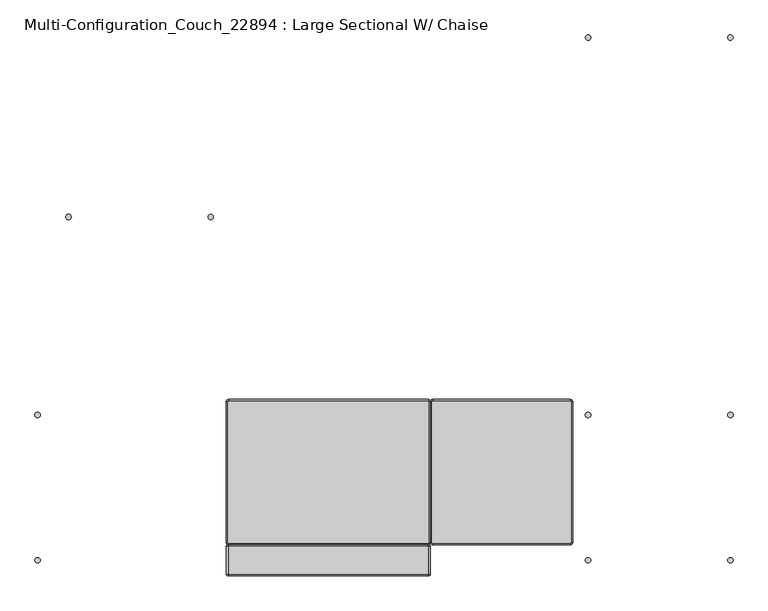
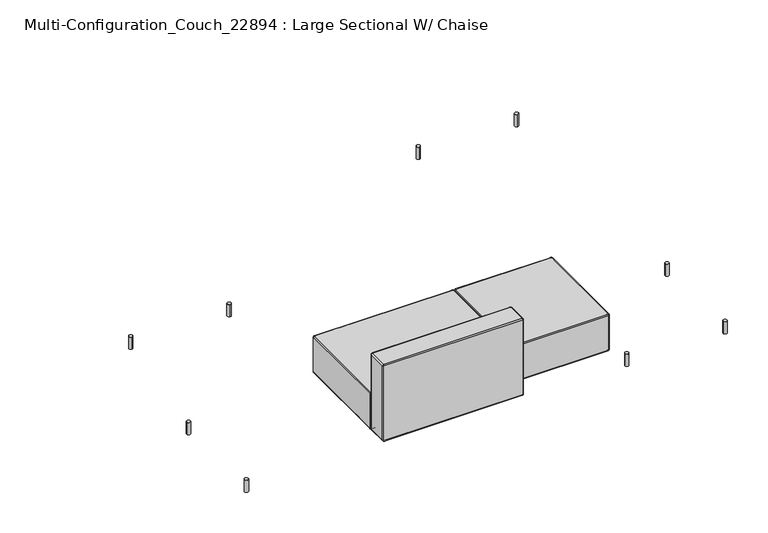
"""IFC4 building model written with IfcOpenShell, lengths in millimetres: furniture geometry, Multi-Configuration_Couch_22894 : Large Sectional W/ Chaise."""

from ifc_helpers import new_model, si_unit, point, frame, frame_2d, origin, origin_with_axes, place, context, project, spatial, circle_curve, ellipse_curve, trimmed, segment, composite_curve, outline, extrude, source, transform, mapped, element, save
from ifc_brep_helpers import plane_surface, cylinder_surface, revolved_surface, advanced_brep


def multi_configuration_couch_22894_large_sectional_w_chaise_7bcb906a(model_context):
    return source(origin(), model_context, "Body", "SolidModel", [
        advanced_brep(
        [(1278.2237705, -114.3520492, 304.8), (1275.0487705, -111.1770492, 304.8), (709.8987705, -111.1770492, 304.8), (706.7237705, -114.3520492, 304.8), (706.7237705, -692.2020492, 304.8), (709.8987705, -695.3770492, 304.8), (1275.0487705, -695.3770492, 304.8), (1278.2237705, -692.2020492, 304.8), (1278.2237705, -692.2020492, 76.2), (1275.0487705, -695.3770492, 76.2), (709.8987705, -695.3770492, 76.2), (706.7237705, -692.2020492, 76.2), (706.7237705, -114.3520492, 76.2), (709.8987705, -111.1770492, 76.2), (1275.0487705, -111.1770492, 76.2), (1278.2237705, -114.3520492, 76.2), (1275.0487705, -104.8270492, 298.45), (1275.0487705, -104.8270492, 82.55), (709.8987705, -104.8270492, 82.55), (709.8987705, -104.8270492, 298.4500064), (1284.5737705, -692.2020492, 298.45), (1284.5737705, -692.2020492, 82.55), (1284.5737705, -114.3520492, 82.55), (1284.5737705, -114.3520492, 298.45), (709.8987705, -701.7270492, 298.45), (709.8987705, -701.7270492, 82.55), (1275.0487705, -701.7270492, 82.55), (1275.0487705, -701.7270492, 298.45), (700.3737705, -114.3520492, 298.45), (700.3737705, -114.3520492, 82.55), (700.3737705, -692.2020492, 82.55), (700.3737705, -692.2020492, 298.45)],
        [
            (0, 1, circle_curve(frame((1275.0487705, -114.3520492, 304.8), z_axis=(0.0, 0.0, 1.0), x_axis=(0.0, 1.0, 0.0)), 3.175)),
            (1, 2),
            (2, 3, circle_curve(frame((709.8987705, -114.3520492, 304.8), z_axis=(0.0, 0.0, 1.0), x_axis=(-1.0, 0.0, 0.0)), 3.175)),
            (3, 4),
            (4, 5, circle_curve(frame((709.8987705, -692.2020492, 304.8), z_axis=(0.0, 0.0, 1.0), x_axis=(0.0, -1.0, 0.0)), 3.175)),
            (5, 6),
            (6, 7, circle_curve(frame((1275.0487705, -692.2020492, 304.8), z_axis=(0.0, 0.0, 1.0), x_axis=(1.0, 0.0, 0.0)), 3.175)),
            (7, 0),
            (8, 9, circle_curve(frame((1275.0487705, -692.2020492, 76.2), z_axis=(0.0, 0.0, -1.0), x_axis=(1.0, 0.0, 0.0)), 3.175)),
            (9, 10),
            (10, 11, circle_curve(frame((709.8987705, -692.2020492, 76.2), z_axis=(0.0, 0.0, -1.0), x_axis=(0.0, -1.0, 0.0)), 3.175)),
            (11, 12),
            (12, 13, circle_curve(frame((709.8987705, -114.3520492, 76.2), z_axis=(0.0, 0.0, -1.0), x_axis=(-1.0, 0.0, 0.0)), 3.175)),
            (13, 14),
            (14, 15, circle_curve(frame((1275.0487705, -114.3520492, 76.2), z_axis=(0.0, 0.0, -1.0), x_axis=(0.0, 1.0, 0.0)), 3.175)),
            (15, 8),
            (16, 17),
            (17, 18),
            (18, 19),
            (19, 16),
            (20, 21),
            (21, 22),
            (22, 23),
            (23, 20),
            (24, 25),
            (25, 26),
            (26, 27),
            (27, 24),
            (28, 29),
            (29, 30),
            (30, 31),
            (31, 28),
            (22, 17, circle_curve(frame((1275.0487705, -114.3520492, 82.55), z_axis=(0.0, 0.0, 1.0), x_axis=(-1.0, 0.0, 0.0)), 9.525)),
            (16, 23, circle_curve(frame((1275.0487705, -114.3520492, 298.45), z_axis=(0.0, 0.0, -1.0), x_axis=(-1.0, 0.0, 0.0)), 9.525)),
            (18, 29, circle_curve(frame((709.8987705, -114.3520492, 82.55), z_axis=(0.0, 0.0, 1.0), x_axis=(-1.0, 0.0, 0.0)), 9.525)),
            (28, 19, circle_curve(frame((709.8987705, -114.3520492, 298.45), z_axis=(0.0, 0.0, -1.0), x_axis=(-1.0, 0.0, 0.0)), 9.525)),
            (26, 21, circle_curve(frame((1275.0487705, -692.2020492, 82.55), z_axis=(0.0, 0.0, 1.0), x_axis=(-1.0, 0.0, 0.0)), 9.525)),
            (20, 27, circle_curve(frame((1275.0487705, -692.2020492, 298.45), z_axis=(0.0, 0.0, -1.0), x_axis=(-1.0, 0.0, 0.0)), 9.525)),
            (30, 25, circle_curve(frame((709.8987705, -692.2020492, 82.55), z_axis=(0.0, 0.0, 1.0), x_axis=(-1.0, 0.0, 0.0)), 9.525)),
            (24, 31, circle_curve(frame((709.8987705, -692.2020492, 298.45), z_axis=(0.0, 0.0, -1.0), x_axis=(-1.0, 0.0, 0.0)), 9.525)),
            (23, 0, circle_curve(frame((1278.2237705, -114.3520492, 298.45), z_axis=(0.0, -1.0, 0.0), x_axis=(-1.0, 0.0, 0.0)), 6.35)),
            (7, 20, circle_curve(frame((1278.2237705, -692.2020492, 298.45), z_axis=(0.0, 1.0, 0.0), x_axis=(-1.0, 0.0, 0.0)), 6.35)),
            (27, 6, circle_curve(frame((1275.0487705, -695.3770492, 298.45), z_axis=(-1.0, 0.0, 0.0), x_axis=(0.0, 1.0, 0.0)), 6.35)),
            (5, 24, circle_curve(frame((709.8987705, -695.3770492, 298.45), z_axis=(1.0, 0.0, 0.0), x_axis=(0.0, 1.0, 0.0)), 6.35)),
            (31, 4, circle_curve(frame((706.7237705, -692.2020492, 298.45), z_axis=(0.0, 1.0, 0.0), x_axis=(1.0, 0.0, 0.0)), 6.35)),
            (3, 28, circle_curve(frame((706.7237705, -114.3520492, 298.45), z_axis=(0.0, -1.0, 0.0), x_axis=(1.0, 0.0, 0.0)), 6.35)),
            (2, 19, circle_curve(frame((709.8987705, -111.1770492, 298.45), z_axis=(-1.0, 0.0, 0.0), x_axis=(0.0, -1.0, 0.0)), 6.35)),
            (1, 16, circle_curve(frame((1275.0487705, -111.1770492, 298.45), z_axis=(-1.0, 0.0, 0.0), x_axis=(0.0, -1.0, 0.0)), 6.35)),
            (15, 22, circle_curve(frame((1278.2237705, -114.3520492, 82.55), z_axis=(0.0, -1.0, 0.0), x_axis=(-1.0, 0.0, 0.0)), 6.35)),
            (21, 8, circle_curve(frame((1278.2237705, -692.2020492, 82.55), z_axis=(0.0, 1.0, 0.0), x_axis=(-1.0, 0.0, 0.0)), 6.35)),
            (9, 26, circle_curve(frame((1275.0487705, -695.3770492, 82.55), z_axis=(-1.0, 0.0, 0.0), x_axis=(0.0, 1.0, 0.0)), 6.35)),
            (25, 10, circle_curve(frame((709.8987705, -695.3770492, 82.55), z_axis=(1.0, 0.0, 0.0), x_axis=(0.0, 1.0, 0.0)), 6.35)),
            (11, 30, circle_curve(frame((706.7237705, -692.2020492, 82.55), z_axis=(0.0, 1.0, 0.0), x_axis=(1.0, 0.0, 0.0)), 6.35)),
            (29, 12, circle_curve(frame((706.7237705, -114.3520492, 82.55), z_axis=(0.0, -1.0, 0.0), x_axis=(1.0, 0.0, 0.0)), 6.35)),
            (13, 18, circle_curve(frame((709.8987705, -111.1770492, 82.55), z_axis=(1.0, 0.0, 0.0), x_axis=(0.0, -1.0, 0.0)), 6.35)),
            (17, 14, circle_curve(frame((1275.0487705, -111.1770492, 82.55), z_axis=(-1.0, 0.0, 0.0), x_axis=(0.0, -1.0, 0.0)), 6.35)),
        ],
        [
            plane_surface(frame((1284.5737705, -104.8270492, 304.8), z_axis=(0.0, 0.0, 1.0), x_axis=(1.0, 0.0, 0.0))),
            plane_surface(frame((1284.5737705, -104.8270492, 76.2), z_axis=(0.0, 0.0, -1.0), x_axis=(-1.0, 0.0, 0.0))),
            plane_surface(frame((700.3737705, -104.8270492, 304.8), z_axis=(0.0, 1.0, 0.0), x_axis=(0.0, 0.0, -1.0))),
            plane_surface(frame((1284.5737705, -104.8270492, 304.8), z_axis=(1.0, 0.0, 0.0), x_axis=(0.0, 0.0, -1.0))),
            plane_surface(frame((1284.5737705, -701.7270492, 304.8), z_axis=(0.0, -1.0, 0.0), x_axis=(0.0, 0.0, -1.0))),
            plane_surface(frame((700.3737705, -701.7270492, 304.8), z_axis=(-1.0, 0.0, 0.0), x_axis=(0.0, 0.0, -1.0))),
            cylinder_surface(frame((1275.0487705, -114.3520492, 76.2), z_axis=(0.0, 0.0, -1.0), x_axis=(-1.0, 0.0, 0.0)), 9.525),
            cylinder_surface(frame((709.8987705, -114.3520492, 76.2), z_axis=(0.0, 0.0, -1.0), x_axis=(-1.0, 0.0, 0.0)), 9.525),
            cylinder_surface(frame((1275.0487705, -692.2020492, 76.2), z_axis=(0.0, 0.0, -1.0), x_axis=(-1.0, 0.0, 0.0)), 9.525),
            cylinder_surface(frame((709.8987705, -692.2020492, 76.2), z_axis=(0.0, 0.0, -1.0), x_axis=(-1.0, 0.0, 0.0)), 9.525),
            cylinder_surface(frame((1278.2237705, -114.3520492, 298.45), z_axis=(0.0, -1.0, 0.0), x_axis=(-1.0, 0.0, 0.0)), 6.35),
            cylinder_surface(frame((1275.0487705, -695.3770492, 298.45), z_axis=(-1.0, 0.0, 0.0), x_axis=(0.0, 1.0, 0.0)), 6.35),
            cylinder_surface(frame((706.7237705, -692.2020492, 298.45), z_axis=(0.0, 1.0, 0.0), x_axis=(1.0, 0.0, 0.0)), 6.35),
            revolved_surface(trimmed(ellipse_curve(frame((706.7237705, -114.3520492, 298.45), z_axis=(0.0, 1.0, 0.0), x_axis=(1.0, 0.0, 0.0)), 6.35, 6.35), [point((700.3737705, -114.3520492, 298.45))], [point((706.7237705, -114.3520492, 304.8))], True, "CARTESIAN"), (709.8987705, -114.3520492, 304.8), (0.0, 0.0, 1.0)),
            cylinder_surface(frame((709.8987705, -111.1770492, 298.45), z_axis=(1.0, 0.0, 0.0), x_axis=(0.0, -1.0, 0.0)), 6.35),
            cylinder_surface(frame((1278.2237705, -114.3520492, 82.55), z_axis=(0.0, -1.0, 0.0), x_axis=(-1.0, 0.0, 0.0)), 6.35),
            cylinder_surface(frame((1275.0487705, -695.3770492, 82.55), z_axis=(-1.0, 0.0, 0.0), x_axis=(0.0, 1.0, 0.0)), 6.35),
            cylinder_surface(frame((706.7237705, -692.2020492, 82.55), z_axis=(0.0, 1.0, 0.0), x_axis=(1.0, 0.0, 0.0)), 6.35),
            cylinder_surface(frame((709.8987705, -111.1770492, 82.55), z_axis=(1.0, 0.0, 0.0), x_axis=(0.0, -1.0, 0.0)), 6.35),
            revolved_surface(trimmed(ellipse_curve(frame((1275.0487705, -111.1770492, 298.45), z_axis=(1.0, 0.0, 0.0), x_axis=(0.0, -1.0, 0.0)), 6.35, 6.35), [point((1275.0487705, -104.8270492, 298.45))], [point((1275.0487705, -111.1770492, 304.8))], True, "CARTESIAN"), (1275.0487705, -114.3520492, 304.8), (0.0, 0.0, 1.0)),
            revolved_surface(trimmed(ellipse_curve(frame((1278.2237705, -692.2020492, 298.45), z_axis=(0.0, -1.0, 0.0), x_axis=(-1.0, 0.0, 0.0)), 6.35, 6.35), [point((1284.5737705, -692.2020492, 298.45))], [point((1278.2237705, -692.2020492, 304.8))], True, "CARTESIAN"), (1275.0487705, -692.2020492, 304.8), (0.0, 0.0, 1.0)),
            revolved_surface(trimmed(ellipse_curve(frame((709.8987705, -695.3770492, 298.45), z_axis=(-1.0, 0.0, 0.0), x_axis=(0.0, 1.0, 0.0)), 6.35, 6.35), [point((709.8987705, -701.7270492, 298.45))], [point((709.8987705, -695.3770492, 304.8))], True, "CARTESIAN"), (709.8987705, -692.2020492, 304.8), (0.0, 0.0, 1.0)),
            revolved_surface(trimmed(ellipse_curve(frame((1275.0487705, -111.1770492, 82.55), z_axis=(1.0, 0.0, 0.0), x_axis=(0.0, -1.0, 0.0)), 6.35, 6.35), [point((1275.0487705, -111.1770492, 76.2))], [point((1275.0487705, -104.8270492, 82.55))], True, "CARTESIAN"), (1275.0487705, -114.3520492, 76.2), (0.0, 0.0, 1.0)),
            revolved_surface(trimmed(ellipse_curve(frame((1278.2237705, -692.2020492, 82.55), z_axis=(0.0, -1.0, 0.0), x_axis=(-1.0, 0.0, 0.0)), 6.35, 6.35), [point((1278.2237705, -692.2020492, 76.2))], [point((1284.5737705, -692.2020492, 82.55))], True, "CARTESIAN"), (1275.0487705, -692.2020492, 76.2), (0.0, 0.0, 1.0)),
            revolved_surface(trimmed(ellipse_curve(frame((709.8987705, -695.3770492, 82.55), z_axis=(-1.0, 0.0, 0.0), x_axis=(0.0, 1.0, 0.0)), 6.35, 6.35), [point((709.8987705, -695.3770492, 76.2))], [point((709.8987705, -701.7270492, 82.55))], True, "CARTESIAN"), (709.8987705, -692.2020492, 76.2), (0.0, 0.0, 1.0)),
            revolved_surface(trimmed(ellipse_curve(frame((706.7237705, -114.3520492, 82.55), z_axis=(0.0, 1.0, 0.0), x_axis=(1.0, 0.0, 0.0)), 6.35, 6.35), [point((706.7237705, -114.3520492, 76.2))], [point((700.3737705, -114.3520492, 82.55))], True, "CARTESIAN"), (709.8987705, -114.3520492, 76.2), (0.0, 0.0, 1.0)),
        ],
        [
            (0, [[1, 2, 3, 4, 5, 6, 7, 8]]),
            (1, [[9, 10, 11, 12, 13, 14, 15, 16]]),
            (2, [[17, 18, 19, 20]]),
            (3, [[21, 22, 23, 24]]),
            (4, [[25, 26, 27, 28]]),
            (5, [[29, 30, 31, 32]]),
            (6, [[-23, 33, -17, 34]]),
            (7, [[-19, 35, -29, 36]]),
            (8, [[-27, 37, -21, 38]]),
            (9, [[-31, 39, -25, 40]]),
            (10, [[-24, 41, -8, 42]]),
            (11, [[-28, 43, -6, 44]]),
            (12, [[-32, 45, -4, 46]]),
            (13, [[-3, 47, -36, -46]]),
            (14, [[-2, 48, -20, -47]]),
            (15, [[-16, 49, -22, 50]]),
            (16, [[-10, 51, -26, 52]]),
            (17, [[-12, 53, -30, 54]]),
            (18, [[-14, 55, -18, 56]]),
            (19, [[-34, -48, -1, -41]]),
            (20, [[-7, -43, -38, -42]]),
            (21, [[-5, -45, -40, -44]]),
            (22, [[-15, -56, -33, -49]]),
            (23, [[-37, -51, -9, -50]]),
            (24, [[-39, -53, -11, -52]]),
            (25, [[-35, -55, -13, -54]]),
        ],
    ),
        advanced_brep(
        [(-131.4762295, -701.7270492, 549.275), (-128.3012295, -701.7270492, 552.45), (690.8487705, -701.7270492, 552.45), (694.0237705, -701.7270492, 549.275), (694.0237705, -701.7270492, 85.725), (690.8487705, -701.7270492, 82.55), (-128.3012295, -701.7270492, 82.55), (-131.4762295, -701.7270492, 85.725), (-131.4762295, -828.7270492, 85.725), (-128.3012295, -828.7270492, 82.55), (690.8487705, -828.7270492, 82.55), (694.0237705, -828.7270492, 85.725), (694.0237705, -828.7270492, 549.275), (690.8487705, -828.7270492, 552.45), (-128.3012295, -828.7270492, 552.45), (-131.4762295, -828.7270492, 549.275), (-128.3012295, -708.0770492, 558.8), (-128.3012295, -822.3770492, 558.8), (690.8487705, -822.3770492, 558.8), (690.8487705, -708.0770428, 558.8), (-137.8262295, -708.0770492, 85.725), (-137.8262295, -822.3770492, 85.725), (-137.8262295, -822.3770492, 549.275), (-137.8262295, -708.0770492, 549.275), (690.8487705, -708.0770492, 76.2), (690.8487705, -822.3770492, 76.2), (-128.3012295, -822.3770492, 76.2), (-128.3012295, -708.0770492, 76.2), (700.3737705, -708.0770492, 549.275), (700.3737705, -822.3770492, 549.275), (700.3737705, -822.3770492, 85.725), (700.3737705, -708.0770492, 85.725)],
        [
            (0, 1, circle_curve(frame((-128.3012295, -701.7270492, 549.275), z_axis=(0.0, 1.0, 0.0), x_axis=(0.0, 0.0, 1.0)), 3.175)),
            (1, 2),
            (2, 3, circle_curve(frame((690.8487705, -701.7270492, 549.275), z_axis=(0.0, 1.0, 0.0), x_axis=(1.0, 0.0, 0.0)), 3.175)),
            (3, 4),
            (4, 5, circle_curve(frame((690.8487705, -701.7270492, 85.725), z_axis=(0.0, 1.0, 0.0), x_axis=(0.0, 0.0, -1.0)), 3.175)),
            (5, 6),
            (6, 7, circle_curve(frame((-128.3012295, -701.7270492, 85.725), z_axis=(0.0, 1.0, 0.0), x_axis=(-1.0, 0.0, 0.0)), 3.175)),
            (7, 0),
            (8, 9, circle_curve(frame((-128.3012295, -828.7270492, 85.725), z_axis=(0.0, -1.0, 0.0), x_axis=(-1.0, 0.0, 0.0)), 3.175)),
            (9, 10),
            (10, 11, circle_curve(frame((690.8487705, -828.7270492, 85.725), z_axis=(0.0, -1.0, 0.0), x_axis=(0.0, 0.0, -1.0)), 3.175)),
            (11, 12),
            (12, 13, circle_curve(frame((690.8487705, -828.7270492, 549.275), z_axis=(0.0, -1.0, 0.0), x_axis=(1.0, 0.0, 0.0)), 3.175)),
            (13, 14),
            (14, 15, circle_curve(frame((-128.3012295, -828.7270492, 549.275), z_axis=(0.0, -1.0, 0.0), x_axis=(0.0, 0.0, 1.0)), 3.175)),
            (15, 8),
            (16, 17),
            (17, 18),
            (18, 19),
            (19, 16),
            (20, 21),
            (21, 22),
            (22, 23),
            (23, 20),
            (24, 25),
            (25, 26),
            (26, 27),
            (27, 24),
            (28, 29),
            (29, 30),
            (30, 31),
            (31, 28),
            (22, 17, circle_curve(frame((-128.3012295, -822.3770492, 549.275), z_axis=(0.0, 1.0, 0.0), x_axis=(1.0, 0.0, 0.0)), 9.525)),
            (16, 23, circle_curve(frame((-128.3012295, -708.0770492, 549.275), z_axis=(0.0, -1.0, 0.0), x_axis=(1.0, 0.0, 0.0)), 9.525)),
            (18, 29, circle_curve(frame((690.8487705, -822.3770492, 549.275), z_axis=(0.0, 1.0, 0.0), x_axis=(1.0, 0.0, 0.0)), 9.525)),
            (28, 19, circle_curve(frame((690.8487705, -708.0770492, 549.275), z_axis=(0.0, -1.0, 0.0), x_axis=(1.0, 0.0, 0.0)), 9.525)),
            (26, 21, circle_curve(frame((-128.3012295, -822.3770492, 85.725), z_axis=(0.0, 1.0, 0.0), x_axis=(1.0, 0.0, 0.0)), 9.525)),
            (20, 27, circle_curve(frame((-128.3012295, -708.0770492, 85.725), z_axis=(0.0, -1.0, 0.0), x_axis=(1.0, 0.0, 0.0)), 9.525)),
            (30, 25, circle_curve(frame((690.8487705, -822.3770492, 85.725), z_axis=(0.0, 1.0, 0.0), x_axis=(1.0, 0.0, 0.0)), 9.525)),
            (24, 31, circle_curve(frame((690.8487705, -708.0770492, 85.725), z_axis=(0.0, -1.0, 0.0), x_axis=(1.0, 0.0, 0.0)), 9.525)),
            (23, 0, circle_curve(frame((-131.4762295, -708.0770492, 549.275), z_axis=(0.0, 0.0, -1.0), x_axis=(1.0, 0.0, 0.0)), 6.35)),
            (7, 20, circle_curve(frame((-131.4762295, -708.0770492, 85.725), z_axis=(0.0, 0.0, 1.0), x_axis=(1.0, 0.0, 0.0)), 6.35)),
            (27, 6, circle_curve(frame((-128.3012295, -708.0770492, 82.55), z_axis=(1.0, 0.0, 0.0), x_axis=(0.0, 0.0, 1.0)), 6.35)),
            (5, 24, circle_curve(frame((690.8487705, -708.0770492, 82.55), z_axis=(-1.0, 0.0, 0.0), x_axis=(0.0, 0.0, 1.0)), 6.35)),
            (31, 4, circle_curve(frame((694.0237705, -708.0770492, 85.725), z_axis=(0.0, 0.0, 1.0), x_axis=(-1.0, 0.0, 0.0)), 6.35)),
            (3, 28, circle_curve(frame((694.0237705, -708.0770492, 549.275), z_axis=(0.0, 0.0, -1.0), x_axis=(-1.0, 0.0, 0.0)), 6.35)),
            (2, 19, circle_curve(frame((690.8487705, -708.0770492, 552.45), z_axis=(1.0, 0.0, 0.0), x_axis=(0.0, 0.0, -1.0)), 6.35)),
            (1, 16, circle_curve(frame((-128.3012295, -708.0770492, 552.45), z_axis=(1.0, 0.0, 0.0), x_axis=(0.0, 0.0, -1.0)), 6.35)),
            (15, 22, circle_curve(frame((-131.4762295, -822.3770492, 549.275), z_axis=(0.0, 0.0, -1.0), x_axis=(1.0, 0.0, 0.0)), 6.35)),
            (21, 8, circle_curve(frame((-131.4762295, -822.3770492, 85.725), z_axis=(0.0, 0.0, 1.0), x_axis=(1.0, 0.0, 0.0)), 6.35)),
            (9, 26, circle_curve(frame((-128.3012295, -822.3770492, 82.55), z_axis=(1.0, 0.0, 0.0), x_axis=(0.0, 0.0, 1.0)), 6.35)),
            (25, 10, circle_curve(frame((690.8487705, -822.3770492, 82.55), z_axis=(-1.0, 0.0, 0.0), x_axis=(0.0, 0.0, 1.0)), 6.35)),
            (11, 30, circle_curve(frame((694.0237705, -822.3770492, 85.725), z_axis=(0.0, 0.0, 1.0), x_axis=(-1.0, 0.0, 0.0)), 6.35)),
            (29, 12, circle_curve(frame((694.0237705, -822.3770492, 549.275), z_axis=(0.0, 0.0, -1.0), x_axis=(-1.0, 0.0, 0.0)), 6.35)),
            (13, 18, circle_curve(frame((690.8487705, -822.3770492, 552.45), z_axis=(-1.0, 0.0, 0.0), x_axis=(0.0, 0.0, -1.0)), 6.35)),
            (17, 14, circle_curve(frame((-128.3012295, -822.3770492, 552.45), z_axis=(1.0, 0.0, 0.0), x_axis=(0.0, 0.0, -1.0)), 6.35)),
        ],
        [
            plane_surface(frame((-137.8262295, -701.7270492, 558.8), z_axis=(0.0, 1.0, 0.0), x_axis=(-1.0, 0.0, 0.0))),
            plane_surface(frame((-137.8262295, -828.7270492, 558.8), z_axis=(0.0, -1.0, 0.0), x_axis=(1.0, 0.0, 0.0))),
            plane_surface(frame((700.3737705, -701.7270492, 558.8), z_axis=(0.0, 0.0, 1.0), x_axis=(0.0, -1.0, 0.0))),
            plane_surface(frame((-137.8262295, -701.7270492, 558.8), z_axis=(-1.0, 0.0, 0.0), x_axis=(0.0, -1.0, 0.0))),
            plane_surface(frame((-137.8262295, -701.7270492, 76.2), z_axis=(0.0, 0.0, -1.0), x_axis=(0.0, -1.0, 0.0))),
            plane_surface(frame((700.3737705, -701.7270492, 76.2), z_axis=(1.0, 0.0, 0.0), x_axis=(0.0, -1.0, 0.0))),
            cylinder_surface(frame((-128.3012295, -828.7270492, 549.275), z_axis=(0.0, -1.0, 0.0), x_axis=(1.0, 0.0, 0.0)), 9.525),
            cylinder_surface(frame((690.8487705, -828.7270492, 549.275), z_axis=(0.0, -1.0, 0.0), x_axis=(1.0, 0.0, 0.0)), 9.525),
            cylinder_surface(frame((-128.3012295, -828.7270492, 85.725), z_axis=(0.0, -1.0, 0.0), x_axis=(1.0, 0.0, 0.0)), 9.525),
            cylinder_surface(frame((690.8487705, -828.7270492, 85.725), z_axis=(0.0, -1.0, 0.0), x_axis=(1.0, 0.0, 0.0)), 9.525),
            cylinder_surface(frame((-131.4762295, -708.0770492, 549.275), z_axis=(0.0, 0.0, -1.0), x_axis=(1.0, 0.0, 0.0)), 6.35),
            cylinder_surface(frame((-128.3012295, -708.0770492, 82.55), z_axis=(1.0, 0.0, 0.0), x_axis=(0.0, 0.0, 1.0)), 6.35),
            cylinder_surface(frame((694.0237705, -708.0770492, 85.725), z_axis=(0.0, 0.0, 1.0), x_axis=(-1.0, 0.0, 0.0)), 6.35),
            revolved_surface(trimmed(ellipse_curve(frame((694.0237705, -708.0770492, 549.275), z_axis=(0.0, 0.0, 1.0), x_axis=(-1.0, 0.0, 0.0)), 6.35, 6.35), [point((700.3737705, -708.0770492, 549.275))], [point((694.0237705, -701.7270492, 549.275))], True, "CARTESIAN"), (690.8487705, -701.7270492, 549.275), (0.0, 1.0, 0.0)),
            cylinder_surface(frame((690.8487705, -708.0770492, 552.45), z_axis=(-1.0, 0.0, 0.0), x_axis=(0.0, 0.0, -1.0)), 6.35),
            cylinder_surface(frame((-131.4762295, -822.3770492, 549.275), z_axis=(0.0, 0.0, -1.0), x_axis=(1.0, 0.0, 0.0)), 6.35),
            cylinder_surface(frame((-128.3012295, -822.3770492, 82.55), z_axis=(1.0, 0.0, 0.0), x_axis=(0.0, 0.0, 1.0)), 6.35),
            cylinder_surface(frame((694.0237705, -822.3770492, 85.725), z_axis=(0.0, 0.0, 1.0), x_axis=(-1.0, 0.0, 0.0)), 6.35),
            cylinder_surface(frame((690.8487705, -822.3770492, 552.45), z_axis=(-1.0, 0.0, 0.0), x_axis=(0.0, 0.0, -1.0)), 6.35),
            revolved_surface(trimmed(ellipse_curve(frame((-128.3012295, -708.0770492, 552.45), z_axis=(-1.0, 0.0, 0.0), x_axis=(0.0, 0.0, -1.0)), 6.35, 6.35), [point((-128.3012295, -708.0770492, 558.8))], [point((-128.3012295, -701.7270492, 552.45))], True, "CARTESIAN"), (-128.3012295, -701.7270492, 549.275), (0.0, 1.0, 0.0)),
            revolved_surface(trimmed(ellipse_curve(frame((-131.4762295, -708.0770492, 85.725), z_axis=(0.0, 0.0, -1.0), x_axis=(1.0, 0.0, 0.0)), 6.35, 6.35), [point((-137.8262295, -708.0770492, 85.725))], [point((-131.4762295, -701.7270492, 85.725))], True, "CARTESIAN"), (-128.3012295, -701.7270492, 85.725), (0.0, 1.0, 0.0)),
            revolved_surface(trimmed(ellipse_curve(frame((690.8487705, -708.0770492, 82.55), z_axis=(1.0, 0.0, 0.0), x_axis=(0.0, 0.0, 1.0)), 6.35, 6.35), [point((690.8487705, -708.0770492, 76.2))], [point((690.8487705, -701.7270492, 82.55))], True, "CARTESIAN"), (690.8487705, -701.7270492, 85.725), (0.0, 1.0, 0.0)),
            revolved_surface(trimmed(ellipse_curve(frame((-128.3012295, -822.3770492, 552.45), z_axis=(-1.0, 0.0, 0.0), x_axis=(0.0, 0.0, -1.0)), 6.35, 6.35), [point((-128.3012295, -828.7270492, 552.45))], [point((-128.3012295, -822.3770492, 558.8))], True, "CARTESIAN"), (-128.3012295, -828.7270492, 549.275), (0.0, 1.0, 0.0)),
            revolved_surface(trimmed(ellipse_curve(frame((-131.4762295, -822.3770492, 85.725), z_axis=(0.0, 0.0, -1.0), x_axis=(1.0, 0.0, 0.0)), 6.35, 6.35), [point((-131.4762295, -828.7270492, 85.725))], [point((-137.8262295, -822.3770492, 85.725))], True, "CARTESIAN"), (-128.3012295, -828.7270492, 85.725), (0.0, 1.0, 0.0)),
            revolved_surface(trimmed(ellipse_curve(frame((690.8487705, -822.3770492, 82.55), z_axis=(1.0, 0.0, 0.0), x_axis=(0.0, 0.0, 1.0)), 6.35, 6.35), [point((690.8487705, -828.7270492, 82.55))], [point((690.8487705, -822.3770492, 76.2))], True, "CARTESIAN"), (690.8487705, -828.7270492, 85.725), (0.0, 1.0, 0.0)),
            revolved_surface(trimmed(ellipse_curve(frame((694.0237705, -822.3770492, 549.275), z_axis=(0.0, 0.0, 1.0), x_axis=(-1.0, 0.0, 0.0)), 6.35, 6.35), [point((694.0237705, -828.7270492, 549.275))], [point((700.3737705, -822.3770492, 549.275))], True, "CARTESIAN"), (690.8487705, -828.7270492, 549.275), (0.0, 1.0, 0.0)),
        ],
        [
            (0, [[1, 2, 3, 4, 5, 6, 7, 8]]),
            (1, [[9, 10, 11, 12, 13, 14, 15, 16]]),
            (2, [[17, 18, 19, 20]]),
            (3, [[21, 22, 23, 24]]),
            (4, [[25, 26, 27, 28]]),
            (5, [[29, 30, 31, 32]]),
            (6, [[-23, 33, -17, 34]]),
            (7, [[-19, 35, -29, 36]]),
            (8, [[-27, 37, -21, 38]]),
            (9, [[-31, 39, -25, 40]]),
            (10, [[-24, 41, -8, 42]]),
            (11, [[-28, 43, -6, 44]]),
            (12, [[-32, 45, -4, 46]]),
            (13, [[-3, 47, -36, -46]]),
            (14, [[-2, 48, -20, -47]]),
            (15, [[-16, 49, -22, 50]]),
            (16, [[-10, 51, -26, 52]]),
            (17, [[-12, 53, -30, 54]]),
            (18, [[-14, 55, -18, 56]]),
            (19, [[-34, -48, -1, -41]]),
            (20, [[-7, -43, -38, -42]]),
            (21, [[-5, -45, -40, -44]]),
            (22, [[-15, -56, -33, -49]]),
            (23, [[-37, -51, -9, -50]]),
            (24, [[-39, -53, -11, -52]]),
            (25, [[-35, -55, -13, -54]]),
        ],
    ),
        advanced_brep(
        [(694.0237705, -114.3520492, 304.8), (690.8487705, -111.1770492, 304.8), (-128.3012295, -111.1770492, 304.8), (-131.4762295, -114.3520492, 304.8), (-131.4762295, -692.2020492, 304.8), (-128.3012295, -695.3770492, 304.8), (690.8487705, -695.3770492, 304.8), (694.0237705, -692.2020492, 304.8), (694.0237705, -692.2020492, 76.2), (690.8487705, -695.3770492, 76.2), (-128.3012295, -695.3770492, 76.2), (-131.4762295, -692.2020492, 76.2), (-131.4762295, -114.3520492, 76.2), (-128.3012295, -111.1770492, 76.2), (690.8487705, -111.1770492, 76.2), (694.0237705, -114.3520492, 76.2), (690.8487705, -104.8270492, 298.45), (690.8487705, -104.8270492, 82.55), (-128.3012295, -104.8270492, 82.55), (-128.3012295, -104.8270492, 298.4500064), (700.3737705, -692.2020492, 298.45), (700.3737705, -692.2020492, 82.55), (700.3737705, -114.3520492, 82.55), (700.3737705, -114.3520492, 298.45), (-128.3012295, -701.7270492, 298.45), (-128.3012295, -701.7270492, 82.55), (690.8487705, -701.7270492, 82.55), (690.8487705, -701.7270492, 298.45), (-137.8262295, -114.3520492, 298.45), (-137.8262295, -114.3520492, 82.55), (-137.8262295, -692.2020492, 82.55), (-137.8262295, -692.2020492, 298.45)],
        [
            (0, 1, circle_curve(frame((690.8487705, -114.3520492, 304.8), z_axis=(0.0, 0.0, 1.0), x_axis=(0.0, 1.0, 0.0)), 3.175)),
            (1, 2),
            (2, 3, circle_curve(frame((-128.3012295, -114.3520492, 304.8), z_axis=(0.0, 0.0, 1.0), x_axis=(-1.0, 0.0, 0.0)), 3.175)),
            (3, 4),
            (4, 5, circle_curve(frame((-128.3012295, -692.2020492, 304.8), z_axis=(0.0, 0.0, 1.0), x_axis=(0.0, -1.0, 0.0)), 3.175)),
            (5, 6),
            (6, 7, circle_curve(frame((690.8487705, -692.2020492, 304.8), z_axis=(0.0, 0.0, 1.0), x_axis=(1.0, 0.0, 0.0)), 3.175)),
            (7, 0),
            (8, 9, circle_curve(frame((690.8487705, -692.2020492, 76.2), z_axis=(0.0, 0.0, -1.0), x_axis=(1.0, 0.0, 0.0)), 3.175)),
            (9, 10),
            (10, 11, circle_curve(frame((-128.3012295, -692.2020492, 76.2), z_axis=(0.0, 0.0, -1.0), x_axis=(0.0, -1.0, 0.0)), 3.175)),
            (11, 12),
            (12, 13, circle_curve(frame((-128.3012295, -114.3520492, 76.2), z_axis=(0.0, 0.0, -1.0), x_axis=(-1.0, 0.0, 0.0)), 3.175)),
            (13, 14),
            (14, 15, circle_curve(frame((690.8487705, -114.3520492, 76.2), z_axis=(0.0, 0.0, -1.0), x_axis=(0.0, 1.0, 0.0)), 3.175)),
            (15, 8),
            (16, 17),
            (17, 18),
            (18, 19),
            (19, 16),
            (20, 21),
            (21, 22),
            (22, 23),
            (23, 20),
            (24, 25),
            (25, 26),
            (26, 27),
            (27, 24),
            (28, 29),
            (29, 30),
            (30, 31),
            (31, 28),
            (22, 17, circle_curve(frame((690.8487705, -114.3520492, 82.55), z_axis=(0.0, 0.0, 1.0), x_axis=(-1.0, 0.0, 0.0)), 9.525)),
            (16, 23, circle_curve(frame((690.8487705, -114.3520492, 298.45), z_axis=(0.0, 0.0, -1.0), x_axis=(-1.0, 0.0, 0.0)), 9.525)),
            (18, 29, circle_curve(frame((-128.3012295, -114.3520492, 82.55), z_axis=(0.0, 0.0, 1.0), x_axis=(-1.0, 0.0, 0.0)), 9.525)),
            (28, 19, circle_curve(frame((-128.3012295, -114.3520492, 298.45), z_axis=(0.0, 0.0, -1.0), x_axis=(-1.0, 0.0, 0.0)), 9.525)),
            (26, 21, circle_curve(frame((690.8487705, -692.2020492, 82.55), z_axis=(0.0, 0.0, 1.0), x_axis=(-1.0, 0.0, 0.0)), 9.525)),
            (20, 27, circle_curve(frame((690.8487705, -692.2020492, 298.45), z_axis=(0.0, 0.0, -1.0), x_axis=(-1.0, 0.0, 0.0)), 9.525)),
            (30, 25, circle_curve(frame((-128.3012295, -692.2020492, 82.55), z_axis=(0.0, 0.0, 1.0), x_axis=(-1.0, 0.0, 0.0)), 9.525)),
            (24, 31, circle_curve(frame((-128.3012295, -692.2020492, 298.45), z_axis=(0.0, 0.0, -1.0), x_axis=(-1.0, 0.0, 0.0)), 9.525)),
            (23, 0, circle_curve(frame((694.0237705, -114.3520492, 298.45), z_axis=(0.0, -1.0, 0.0), x_axis=(-1.0, 0.0, 0.0)), 6.35)),
            (7, 20, circle_curve(frame((694.0237705, -692.2020492, 298.45), z_axis=(0.0, 1.0, 0.0), x_axis=(-1.0, 0.0, 0.0)), 6.35)),
            (27, 6, circle_curve(frame((690.8487705, -695.3770492, 298.45), z_axis=(-1.0, 0.0, 0.0), x_axis=(0.0, 1.0, 0.0)), 6.35)),
            (5, 24, circle_curve(frame((-128.3012295, -695.3770492, 298.45), z_axis=(1.0, 0.0, 0.0), x_axis=(0.0, 1.0, 0.0)), 6.35)),
            (31, 4, circle_curve(frame((-131.4762295, -692.2020492, 298.45), z_axis=(0.0, 1.0, 0.0), x_axis=(1.0, 0.0, 0.0)), 6.35)),
            (3, 28, circle_curve(frame((-131.4762295, -114.3520492, 298.45), z_axis=(0.0, -1.0, 0.0), x_axis=(1.0, 0.0, 0.0)), 6.35)),
            (2, 19, circle_curve(frame((-128.3012295, -111.1770492, 298.45), z_axis=(-1.0, 0.0, 0.0), x_axis=(0.0, -1.0, 0.0)), 6.35)),
            (1, 16, circle_curve(frame((690.8487705, -111.1770492, 298.45), z_axis=(-1.0, 0.0, 0.0), x_axis=(0.0, -1.0, 0.0)), 6.35)),
            (15, 22, circle_curve(frame((694.0237705, -114.3520492, 82.55), z_axis=(0.0, -1.0, 0.0), x_axis=(-1.0, 0.0, 0.0)), 6.35)),
            (21, 8, circle_curve(frame((694.0237705, -692.2020492, 82.55), z_axis=(0.0, 1.0, 0.0), x_axis=(-1.0, 0.0, 0.0)), 6.35)),
            (9, 26, circle_curve(frame((690.8487705, -695.3770492, 82.55), z_axis=(-1.0, 0.0, 0.0), x_axis=(0.0, 1.0, 0.0)), 6.35)),
            (25, 10, circle_curve(frame((-128.3012295, -695.3770492, 82.55), z_axis=(1.0, 0.0, 0.0), x_axis=(0.0, 1.0, 0.0)), 6.35)),
            (11, 30, circle_curve(frame((-131.4762295, -692.2020492, 82.55), z_axis=(0.0, 1.0, 0.0), x_axis=(1.0, 0.0, 0.0)), 6.35)),
            (29, 12, circle_curve(frame((-131.4762295, -114.3520492, 82.55), z_axis=(0.0, -1.0, 0.0), x_axis=(1.0, 0.0, 0.0)), 6.35)),
            (13, 18, circle_curve(frame((-128.3012295, -111.1770492, 82.55), z_axis=(1.0, 0.0, 0.0), x_axis=(0.0, -1.0, 0.0)), 6.35)),
            (17, 14, circle_curve(frame((690.8487705, -111.1770492, 82.55), z_axis=(-1.0, 0.0, 0.0), x_axis=(0.0, -1.0, 0.0)), 6.35)),
        ],
        [
            plane_surface(frame((700.3737705, -104.8270492, 304.8), z_axis=(0.0, 0.0, 1.0), x_axis=(1.0, 0.0, 0.0))),
            plane_surface(frame((700.3737705, -104.8270492, 76.2), z_axis=(0.0, 0.0, -1.0), x_axis=(-1.0, 0.0, 0.0))),
            plane_surface(frame((-137.8262295, -104.8270492, 304.8), z_axis=(0.0, 1.0, 0.0), x_axis=(0.0, 0.0, -1.0))),
            plane_surface(frame((700.3737705, -104.8270492, 304.8), z_axis=(1.0, 0.0, 0.0), x_axis=(0.0, 0.0, -1.0))),
            plane_surface(frame((700.3737705, -701.7270492, 304.8), z_axis=(0.0, -1.0, 0.0), x_axis=(0.0, 0.0, -1.0))),
            plane_surface(frame((-137.8262295, -701.7270492, 304.8), z_axis=(-1.0, 0.0, 0.0), x_axis=(0.0, 0.0, -1.0))),
            cylinder_surface(frame((690.8487705, -114.3520492, 76.2), z_axis=(0.0, 0.0, -1.0), x_axis=(-1.0, 0.0, 0.0)), 9.525),
            cylinder_surface(frame((-128.3012295, -114.3520492, 76.2), z_axis=(0.0, 0.0, -1.0), x_axis=(-1.0, 0.0, 0.0)), 9.525),
            cylinder_surface(frame((690.8487705, -692.2020492, 76.2), z_axis=(0.0, 0.0, -1.0), x_axis=(-1.0, 0.0, 0.0)), 9.525),
            cylinder_surface(frame((-128.3012295, -692.2020492, 76.2), z_axis=(0.0, 0.0, -1.0), x_axis=(-1.0, 0.0, 0.0)), 9.525),
            cylinder_surface(frame((694.0237705, -114.3520492, 298.45), z_axis=(0.0, -1.0, 0.0), x_axis=(-1.0, 0.0, 0.0)), 6.35),
            cylinder_surface(frame((690.8487705, -695.3770492, 298.45), z_axis=(-1.0, 0.0, 0.0), x_axis=(0.0, 1.0, 0.0)), 6.35),
            cylinder_surface(frame((-131.4762295, -692.2020492, 298.45), z_axis=(0.0, 1.0, 0.0), x_axis=(1.0, 0.0, 0.0)), 6.35),
            revolved_surface(trimmed(ellipse_curve(frame((-131.4762295, -114.3520492, 298.45), z_axis=(0.0, 1.0, 0.0), x_axis=(1.0, 0.0, 0.0)), 6.35, 6.35), [point((-137.8262295, -114.3520492, 298.45))], [point((-131.4762295, -114.3520492, 304.8))], True, "CARTESIAN"), (-128.3012295, -114.3520492, 304.8), (0.0, 0.0, 1.0)),
            cylinder_surface(frame((-128.3012295, -111.1770492, 298.45), z_axis=(1.0, 0.0, 0.0), x_axis=(0.0, -1.0, 0.0)), 6.35),
            cylinder_surface(frame((694.0237705, -114.3520492, 82.55), z_axis=(0.0, -1.0, 0.0), x_axis=(-1.0, 0.0, 0.0)), 6.35),
            cylinder_surface(frame((690.8487705, -695.3770492, 82.55), z_axis=(-1.0, 0.0, 0.0), x_axis=(0.0, 1.0, 0.0)), 6.35),
            cylinder_surface(frame((-131.4762295, -692.2020492, 82.55), z_axis=(0.0, 1.0, 0.0), x_axis=(1.0, 0.0, 0.0)), 6.35),
            cylinder_surface(frame((-128.3012295, -111.1770492, 82.55), z_axis=(1.0, 0.0, 0.0), x_axis=(0.0, -1.0, 0.0)), 6.35),
            revolved_surface(trimmed(ellipse_curve(frame((690.8487705, -111.1770492, 298.45), z_axis=(1.0, 0.0, 0.0), x_axis=(0.0, -1.0, 0.0)), 6.35, 6.35), [point((690.8487705, -104.8270492, 298.45))], [point((690.8487705, -111.1770492, 304.8))], True, "CARTESIAN"), (690.8487705, -114.3520492, 304.8), (0.0, 0.0, 1.0)),
            revolved_surface(trimmed(ellipse_curve(frame((694.0237705, -692.2020492, 298.45), z_axis=(0.0, -1.0, 0.0), x_axis=(-1.0, 0.0, 0.0)), 6.35, 6.35), [point((700.3737705, -692.2020492, 298.45))], [point((694.0237705, -692.2020492, 304.8))], True, "CARTESIAN"), (690.8487705, -692.2020492, 304.8), (0.0, 0.0, 1.0)),
            revolved_surface(trimmed(ellipse_curve(frame((-128.3012295, -695.3770492, 298.45), z_axis=(-1.0, 0.0, 0.0), x_axis=(0.0, 1.0, 0.0)), 6.35, 6.35), [point((-128.3012295, -701.7270492, 298.45))], [point((-128.3012295, -695.3770492, 304.8))], True, "CARTESIAN"), (-128.3012295, -692.2020492, 304.8), (0.0, 0.0, 1.0)),
            revolved_surface(trimmed(ellipse_curve(frame((690.8487705, -111.1770492, 82.55), z_axis=(1.0, 0.0, 0.0), x_axis=(0.0, -1.0, 0.0)), 6.35, 6.35), [point((690.8487705, -111.1770492, 76.2))], [point((690.8487705, -104.8270492, 82.55))], True, "CARTESIAN"), (690.8487705, -114.3520492, 76.2), (0.0, 0.0, 1.0)),
            revolved_surface(trimmed(ellipse_curve(frame((694.0237705, -692.2020492, 82.55), z_axis=(0.0, -1.0, 0.0), x_axis=(-1.0, 0.0, 0.0)), 6.35, 6.35), [point((694.0237705, -692.2020492, 76.2))], [point((700.3737705, -692.2020492, 82.55))], True, "CARTESIAN"), (690.8487705, -692.2020492, 76.2), (0.0, 0.0, 1.0)),
            revolved_surface(trimmed(ellipse_curve(frame((-128.3012295, -695.3770492, 82.55), z_axis=(-1.0, 0.0, 0.0), x_axis=(0.0, 1.0, 0.0)), 6.35, 6.35), [point((-128.3012295, -695.3770492, 76.2))], [point((-128.3012295, -701.7270492, 82.55))], True, "CARTESIAN"), (-128.3012295, -692.2020492, 76.2), (0.0, 0.0, 1.0)),
            revolved_surface(trimmed(ellipse_curve(frame((-131.4762295, -114.3520492, 82.55), z_axis=(0.0, 1.0, 0.0), x_axis=(1.0, 0.0, 0.0)), 6.35, 6.35), [point((-131.4762295, -114.3520492, 76.2))], [point((-137.8262295, -114.3520492, 82.55))], True, "CARTESIAN"), (-128.3012295, -114.3520492, 76.2), (0.0, 0.0, 1.0)),
        ],
        [
            (0, [[1, 2, 3, 4, 5, 6, 7, 8]]),
            (1, [[9, 10, 11, 12, 13, 14, 15, 16]]),
            (2, [[17, 18, 19, 20]]),
            (3, [[21, 22, 23, 24]]),
            (4, [[25, 26, 27, 28]]),
            (5, [[29, 30, 31, 32]]),
            (6, [[-23, 33, -17, 34]]),
            (7, [[-19, 35, -29, 36]]),
            (8, [[-27, 37, -21, 38]]),
            (9, [[-31, 39, -25, 40]]),
            (10, [[-24, 41, -8, 42]]),
            (11, [[-28, 43, -6, 44]]),
            (12, [[-32, 45, -4, 46]]),
            (13, [[-3, 47, -36, -46]]),
            (14, [[-2, 48, -20, -47]]),
            (15, [[-16, 49, -22, 50]]),
            (16, [[-10, 51, -26, 52]]),
            (17, [[-12, 53, -30, 54]]),
            (18, [[-14, 55, -18, 56]]),
            (19, [[-34, -48, -1, -41]]),
            (20, [[-7, -43, -38, -42]]),
            (21, [[-5, -45, -40, -44]]),
            (22, [[-15, -56, -33, -49]]),
            (23, [[-37, -51, -9, -50]]),
            (24, [[-39, -53, -11, -52]]),
            (25, [[-35, -55, -13, -54]]),
        ],
    ),
        extrude(outline(composite_curve([segment(trimmed(circle_curve(frame_2d((-201.3262295, 644.4729508)), 11.1125), [point((-201.3262295, 655.5854508))], [point((-201.3262295, 633.3604508))], False, "CARTESIAN"), True, "CONTINUOUS"), segment(trimmed(circle_curve(frame_2d((-201.3262295, 644.4729508)), 11.1125), [point((-201.3262295, 633.3604508))], [point((-201.3262295, 655.5854508))], False, "CARTESIAN"), True, "CONTINUOUS")], self_intersect=False)), origin_with_axes(), (0.0, 0.0, 1.0), 76.2),
        extrude(outline(composite_curve([segment(trimmed(circle_curve(frame_2d((-785.5262295, 644.4729508)), 11.1125), [point((-785.5262295, 633.3604508))], [point((-785.5262295, 655.5854508))], False, "CARTESIAN"), True, "CONTINUOUS"), segment(trimmed(circle_curve(frame_2d((-785.5262295, 644.4729508)), 11.1125), [point((-785.5262295, 655.5854508))], [point((-785.5262295, 633.3604508))], False, "CARTESIAN"), True, "CONTINUOUS")], self_intersect=False)), origin_with_axes(), (0.0, 0.0, 1.0), 76.2),
        extrude(outline(composite_curve([segment(trimmed(circle_curve(frame_2d((1932.2737705, 1381.0729508)), 11.1125), [point((1932.2737705, 1392.1854508))], [point((1932.2737705, 1369.9604508))], False, "CARTESIAN"), True, "CONTINUOUS"), segment(trimmed(circle_curve(frame_2d((1932.2737705, 1381.0729508)), 11.1125), [point((1932.2737705, 1369.9604508))], [point((1932.2737705, 1392.1854508))], False, "CARTESIAN"), True, "CONTINUOUS")], self_intersect=False)), origin_with_axes(), (0.0, 0.0, 1.0), 76.2),
        extrude(outline(composite_curve([segment(trimmed(circle_curve(frame_2d((1348.0737705, 1381.0729508)), 11.1125), [point((1348.0737705, 1369.9604508))], [point((1348.0737705, 1392.1854508))], False, "CARTESIAN"), True, "CONTINUOUS"), segment(trimmed(circle_curve(frame_2d((1348.0737705, 1381.0729508)), 11.1125), [point((1348.0737705, 1392.1854508))], [point((1348.0737705, 1369.9604508))], False, "CARTESIAN"), True, "CONTINUOUS")], self_intersect=False)), origin_with_axes(), (0.0, 0.0, 1.0), 76.2),
        extrude(outline(composite_curve([segment(trimmed(circle_curve(frame_2d((-912.5262295, -765.2270492)), 11.1125), [point((-901.4137295, -765.2270492))], [point((-923.6387295, -765.2270492))], False, "CARTESIAN"), True, "CONTINUOUS"), segment(trimmed(circle_curve(frame_2d((-912.5262295, -765.2270492)), 11.1125), [point((-923.6387295, -765.2270492))], [point((-901.4137295, -765.2270492))], False, "CARTESIAN"), True, "CONTINUOUS")], self_intersect=False)), origin_with_axes(), (0.0, 0.0, 1.0), 76.2),
        extrude(outline(composite_curve([segment(trimmed(circle_curve(frame_2d((-912.5262295, -168.3270492)), 11.1125), [point((-923.6387295, -168.3270492))], [point((-901.4137295, -168.3270492))], False, "CARTESIAN"), True, "CONTINUOUS"), segment(trimmed(circle_curve(frame_2d((-912.5262295, -168.3270492)), 11.1125), [point((-901.4137295, -168.3270492))], [point((-923.6387295, -168.3270492))], False, "CARTESIAN"), True, "CONTINUOUS")], self_intersect=False)), origin_with_axes(), (0.0, 0.0, 1.0), 76.2),
        extrude(outline(composite_curve([segment(trimmed(circle_curve(frame_2d((1932.2737705, -765.2270492)), 11.1125), [point((1943.3862705, -765.2270492))], [point((1921.1612705, -765.2270492))], False, "CARTESIAN"), True, "CONTINUOUS"), segment(trimmed(circle_curve(frame_2d((1932.2737705, -765.2270492)), 11.1125), [point((1921.1612705, -765.2270492))], [point((1943.3862705, -765.2270492))], False, "CARTESIAN"), True, "CONTINUOUS")], self_intersect=False)), origin_with_axes(), (0.0, 0.0, 1.0), 76.2),
        extrude(outline(composite_curve([segment(trimmed(circle_curve(frame_2d((1932.2737705, -168.3270492)), 11.1125), [point((1921.1612705, -168.3270492))], [point((1943.3862705, -168.3270492))], False, "CARTESIAN"), True, "CONTINUOUS"), segment(trimmed(circle_curve(frame_2d((1932.2737705, -168.3270492)), 11.1125), [point((1943.3862705, -168.3270492))], [point((1921.1612705, -168.3270492))], False, "CARTESIAN"), True, "CONTINUOUS")], self_intersect=False)), origin_with_axes(), (0.0, 0.0, 1.0), 76.2),
        extrude(outline(composite_curve([segment(trimmed(circle_curve(frame_2d((1348.0737705, -765.2270492)), 11.1125), [point((1359.1862705, -765.2270492))], [point((1336.9612705, -765.2270492))], False, "CARTESIAN"), True, "CONTINUOUS"), segment(trimmed(circle_curve(frame_2d((1348.0737705, -765.2270492)), 11.1125), [point((1336.9612705, -765.2270492))], [point((1359.1862705, -765.2270492))], False, "CARTESIAN"), True, "CONTINUOUS")], self_intersect=False)), origin_with_axes(), (0.0, 0.0, 1.0), 76.2),
        extrude(outline(composite_curve([segment(trimmed(circle_curve(frame_2d((1348.0737705, -168.3270492)), 11.1125), [point((1336.9612705, -168.3270492))], [point((1359.1862705, -168.3270492))], False, "CARTESIAN"), True, "CONTINUOUS"), segment(trimmed(circle_curve(frame_2d((1348.0737705, -168.3270492)), 11.1125), [point((1359.1862705, -168.3270492))], [point((1336.9612705, -168.3270492))], False, "CARTESIAN"), True, "CONTINUOUS")], self_intersect=False)), origin_with_axes(), (0.0, 0.0, 1.0), 76.2),
    ])


if __name__ == "__main__":
    model = new_model("IFC4")
    model_context = context("Model", 3, world=origin())
    ifc_project = project(units=[si_unit("LENGTHUNIT", "METRE", prefix="MILLI")], contexts=[model_context])
    site = spatial("IfcSite", under=ifc_project)
    building = spatial("IfcBuilding", under=site)
    placement = place(None, origin())
    multi_configuration_couch_22894_large_sectional_w_chaise_shape = multi_configuration_couch_22894_large_sectional_w_chaise_7bcb906a(model_context)
    element("IfcFurniture", 1, ObjectType="Multi-Configuration_Couch_22894 : Large Sectional W/ Chaise", at=placement, inside=building, context=model_context, shape_type="MappedRepresentation", body=[
        mapped(multi_configuration_couch_22894_large_sectional_w_chaise_shape, transform((0.0, 0.0, 0.0), x_axis=(1.0, 0.0, 0.0), y_axis=(0.0, 1.0, 0.0), z_axis=(0.0, 0.0, 1.0))),
    ])
    save(model, "model.ifc")
